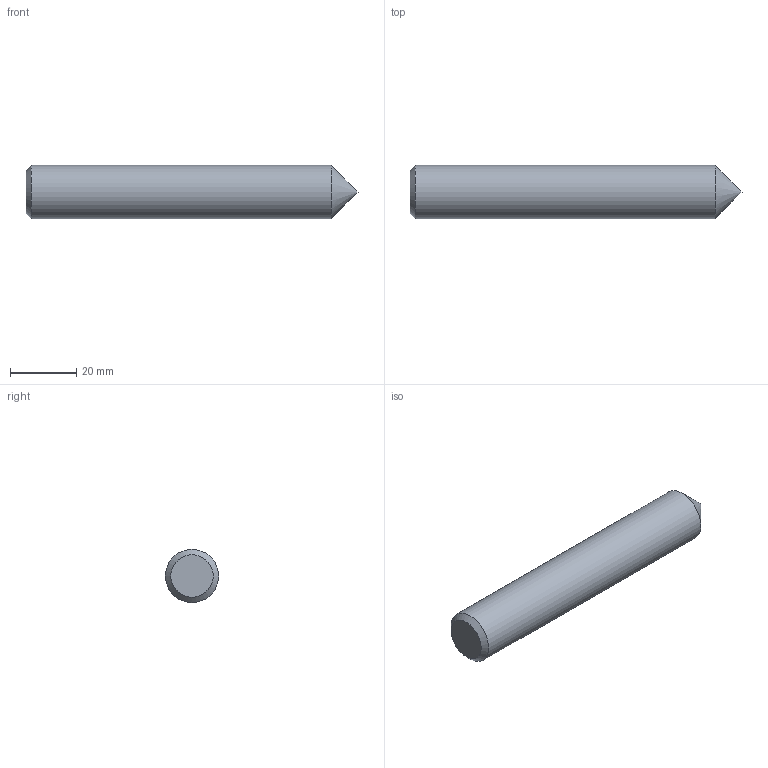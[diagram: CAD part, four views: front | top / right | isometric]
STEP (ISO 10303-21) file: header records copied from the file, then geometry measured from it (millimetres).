
FILE_DESCRIPTION (( 'STEP AP214' ), '1' );
FILE_NAME ('EG99941881.STEP', '2021-06-07T08:18:27', ( '' ), ( '' ), 'SwSTEP 2.0', 'SolidWorks 2014', '' );
FILE_SCHEMA (( 'AUTOMOTIVE_DESIGN' ));
Length unit declared in the file: millimetre
Products named in the file (1): EG99941881
Bounding box: 100 x 16 x 16 mm (x, y, z)
Volume: 18973.8 mm3; surface area: 5461.5 mm2
Topology: 2 solids, 2 shells, 6 faces, 8 edges, 5 vertices
Faces by surface type: plane 3, cone 2, cylinder 1
Full cylindrical faces by diameter (mm): 16 x1
Entity records: 191 total; most frequent: DIRECTION 22, CARTESIAN_POINT 15, AXIS2_PLACEMENT_3D 11, ORIENTED_EDGE 8, UNCERTAINTY_MEASURE_WITH_UNIT 8, EDGE_LOOP 8, SURFACE_STYLE_USAGE 7, PRESENTATION_STYLE_ASSIGNMENT 7
